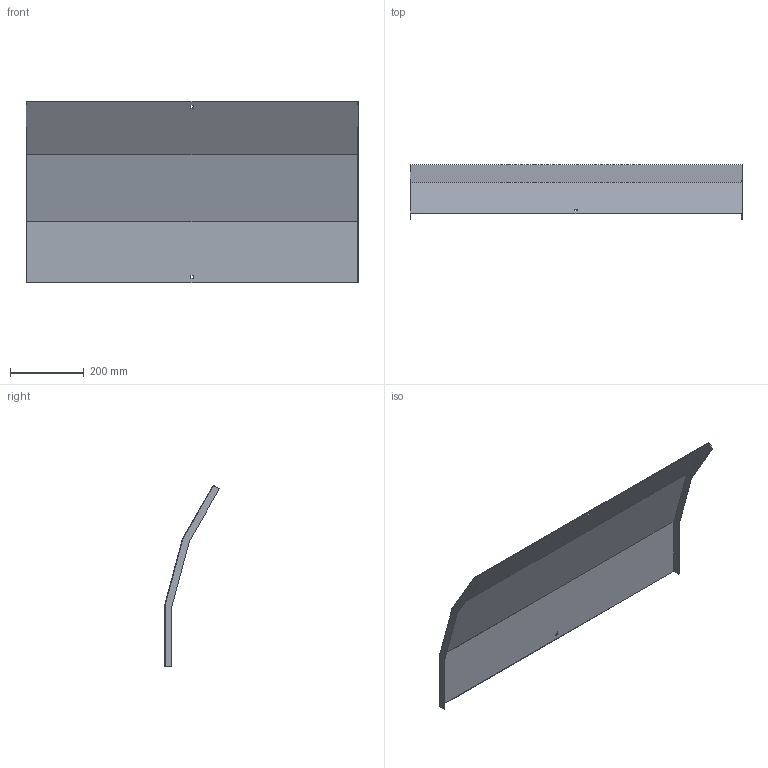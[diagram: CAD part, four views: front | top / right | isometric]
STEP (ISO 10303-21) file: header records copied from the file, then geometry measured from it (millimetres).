
FILE_DESCRIPTION (( 'STEP AP214' ), '1' );
FILE_NAME ('A2_35N3J900.step', '2025-02-21T10:31:38', ( '' ), ( '' ), 'SwSTEP 2.0', 'SolidWorks 2023', '' );
FILE_SCHEMA (( 'AUTOMOTIVE_DESIGN' ));
Length unit declared in the file: millimetre
Products named in the file (1): A2_35N3J900
Bounding box: 903 x 149.62 x 493.76 mm (x, y, z)
Volume: 735745.7 mm3; surface area: 985444.5 mm2
Topology: 1 solids, 1 shells, 26 faces, 72 edges, 48 vertices
Faces by surface type: plane 26
Entity records: 847 total; most frequent: CARTESIAN_POINT 147, ORIENTED_EDGE 144, DIRECTION 126, LINE 72, VECTOR 72, EDGE_CURVE 72, VERTEX_POINT 48, EDGE_LOOP 30
